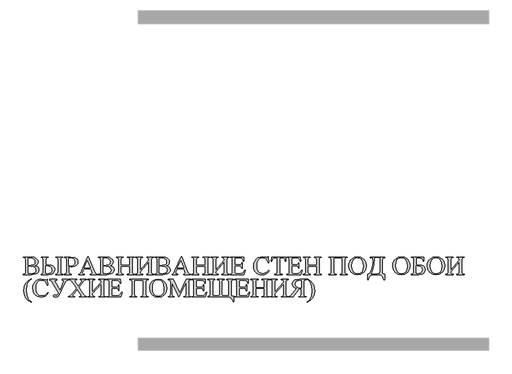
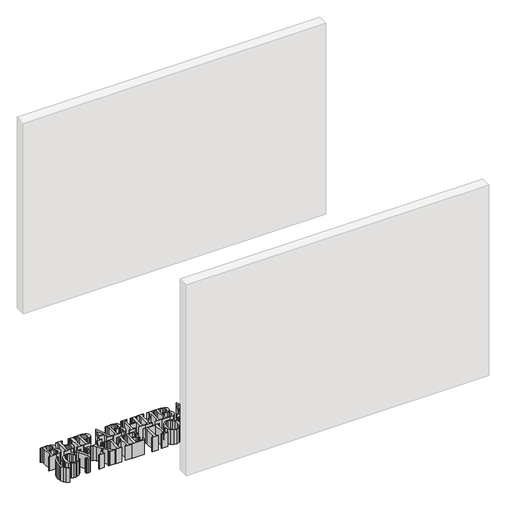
# One storey, part 10 of 17: 1 proxy.
"""IFC4 building model written with IfcOpenShell, lengths in millimetres."""

from ifc_helpers import new_model, si_unit, origin, origin_with_axes, place, context, project, spatial, polyline, outline, extrude, element, save

model = new_model("IFC4")

# Units and contexts
model_context = context("Model", 3, world=origin())
ifc_project = project(units=[si_unit("LENGTHUNIT", "METRE", prefix="MILLI")], contexts=[model_context])

# Site, building, storey
site = spatial("IfcSite", under=ifc_project)
building = spatial("IfcBuilding", under=site)
storey = spatial("IfcBuildingStorey", under=building, Name="Уровень 1", Elevation=0.0)

# Proxy
placement = place(None, origin())
element("IfcBuildingElementProxy", 1, Name="SG_Текст 2", ObjectType="SG_Текст 2", at=placement, inside=storey, context=model_context, shape_type="SweptSolid", body=[
    extrude(outline(polyline([(-676.1512491, 3742.2593826), (-662.4340903, 3738.0155109), (-652.6591062, 3731.8005518), (-644.5434558, 3720.667931), (-641.838239, 3707.3027521), (-643.5931101, 3696.5472526), (-648.8577235, 3686.2442987), (-657.1795336, 3677.5302825), (-668.1059947, 3671.5415962), (-705.4762015, 3666.915575), (-775.7112726, 3666.915575), (-775.7112726, 3669.4900564), (-770.3611784, 3669.4900564), (-762.688017, 3671.0287113), (-757.5289976, 3675.644676), (-755.1154213, 3692.6603891), (-755.1154213, 3790.4906828), (-758.1726179, 3808.6327316), (-770.3611784, 3813.6610156), (-775.7112726, 3813.6610156), (-775.7112726, 3816.235497), (-711.8319525, 3816.235497), (-683.1506205, 3813.580563), (-668.7194454, 3808.0142526), (-658.1701055, 3799.3605758), (-651.7137888, 3788.3938884), (-649.5616833, 3775.8885461), (-651.2461584, 3765.1380749), (-656.2995838, 3755.5742787), (-664.6314505, 3747.7603253), (-676.1512491, 3742.2593826)]), holes=[polyline([(-734.5195699, 3748.2933234), (-725.1066223, 3747.1267615), (-713.4812296, 3746.7244988), (-689.0035431, 3750.2241845), (-682.1751334, 3754.6490744), (-678.0619971, 3760.9243729), (-675.3064974, 3776.6930715), (-677.8709223, 3788.9168299), (-685.5641968, 3799.1996708), (-698.1751331, 3806.1839572), (-715.4925432, 3808.5120527), (-734.5195699, 3806.0582501), (-734.5195699, 3748.2933234)]), polyline([(-734.5195699, 3677.5755371), (-708.9758872, 3674.6390192), (-691.18079, 3676.8564924), (-678.1826759, 3683.5089122), (-670.2329588, 3693.41966), (-667.5830532, 3705.4121174), (-672.430319, 3721.925002), (-678.7659568, 3729.0249391), (-688.0783388, 3734.4353727), (-714.8086966, 3739.0010546), (-726.6151075, 3738.7798101), (-734.5195699, 3738.035624), (-734.5195699, 3677.5755371)])]), origin_with_axes(), (0.0, 0.0, 1.0), 150.0),
    extrude(outline(polyline([(-582.6251665, 3749.2989802), (-576.5107731, 3749.2989802), (-535.1983917, 3745.8194077), (-523.2260475, 3740.7458691), (-513.6974493, 3732.4843985), (-507.4674054, 3721.6434181), (-505.3907241, 3708.8313505), (-508.4831187, 3693.1581892), (-517.7603027, 3679.5265113), (-534.6100825, 3670.068309), (-560.4202643, 3666.915575), (-623.8168691, 3666.915575), (-623.8168691, 3669.4900564), (-606.9017217, 3673.8948332), (-603.2210178, 3692.6603891), (-603.2210178, 3790.4906828), (-606.9017217, 3809.2562388), (-623.8168691, 3813.6610156), (-623.8168691, 3816.235497), (-562.0293152, 3816.235497), (-562.0293152, 3813.6610156), (-578.9444626, 3809.2562388), (-582.6251665, 3790.4906828), (-582.6251665, 3749.2989802)]), holes=[polyline([(-582.6251665, 3676.2078438), (-567.2587306, 3674.6390192), (-554.1198244, 3676.9118036), (-542.2983287, 3683.7301567), (-533.9262358, 3694.5610805), (-531.1355382, 3708.8715768), (-534.0519429, 3723.3681196), (-542.8011571, 3733.5503947), (-556.0356006, 3739.5692506), (-572.4076934, 3741.575536), (-582.6251665, 3740.690558), (-582.6251665, 3676.2078438)])]), origin_with_axes(), (0.0, 0.0, 1.0), 150.0),
    extrude(outline(polyline([(-435.8797259, 3669.4900564), (-435.8797259, 3666.915575), (-497.6672798, 3666.915575), (-497.6672798, 3669.4900564), (-493.403295, 3669.4900564), (-483.4472926, 3671.7628407), (-478.2983298, 3677.6962159), (-477.0714285, 3692.6603891), (-477.0714285, 3790.8929456), (-478.3988955, 3805.6962137), (-483.6081977, 3811.649702), (-494.3687255, 3813.6610156), (-497.6672798, 3813.6610156), (-497.6672798, 3816.235497), (-435.8797259, 3816.235497), (-435.8797259, 3813.6610156), (-439.0576014, 3813.6610156), (-449.6773372, 3811.6094757), (-455.0475445, 3805.6157612), (-456.4755772, 3790.4906828), (-456.4755772, 3692.6603891), (-453.1770229, 3674.1764171), (-447.9978903, 3670.6616465), (-439.0576014, 3669.4900564), (-435.8797259, 3669.4900564)])), origin_with_axes(), (0.0, 0.0, 1.0), 150.0),
    extrude(outline(polyline([(-384.3900976, 3737.1908723), (-384.3900976, 3692.6603891), (-381.4133534, 3674.5183404), (-369.3052455, 3669.4900564), (-363.7942463, 3669.4900564), (-363.7942463, 3666.915575), (-425.5818002, 3666.915575), (-425.5818002, 3669.4900564), (-420.1512535, 3669.4900564), (-412.3272436, 3671.0890507), (-407.1179413, 3675.8860336), (-404.9859489, 3692.6603891), (-404.9859489, 3790.4906828), (-407.8420142, 3808.6327316), (-420.1512535, 3813.6610156), (-425.5818002, 3813.6610156), (-425.5818002, 3816.235497), (-368.6213989, 3816.235497), (-335.6961952, 3812.1123041), (-324.5987724, 3806.5711351), (-315.4020409, 3798.194014), (-309.2172516, 3787.4988539), (-307.1556551, 3775.0035681), (-310.4240398, 3758.4454288), (-320.2291936, 3745.2964661), (-335.9978922, 3736.7131853), (-357.1569114, 3733.8520917), (-369.8281871, 3734.6968434), (-384.3900976, 3737.1908723)]), holes=[polyline([(-384.3900976, 3743.7879809), (-372.8451575, 3742.1387038), (-364.2367353, 3741.575536), (-352.3247304, 3743.8080941), (-342.172625, 3750.5057684), (-335.2185082, 3760.7634678), (-332.9004693, 3773.6761011), (-337.3253592, 3791.7980367), (-349.855843, 3804.3486336), (-368.2995887, 3808.5120527), (-384.3900976, 3806.4202866), (-384.3900976, 3743.7879809)])]), origin_with_axes(), (0.0, 0.0, 1.0), 150.0),
    extrude(outline(polyline([(-198.1022315, 3715.8307218), (-256.3498735, 3715.8307218), (-265.9639525, 3693.4649145), (-269.7049958, 3679.5466244), (-266.4466678, 3673.1104209), (-252.3674725, 3669.4900564), (-252.3674725, 3666.915575), (-299.8344736, 3666.915575), (-299.8344736, 3669.4900564), (-287.6861395, 3674.1563039), (-275.1757688, 3697.527768), (-222.8011626, 3818.8099784), (-217.2901633, 3818.8099784), (-168.1336588, 3695.5566807), (-156.6691712, 3674.8401506), (-142.3486184, 3669.4900564), (-142.3486184, 3666.915575), (-201.3605595, 3666.915575), (-201.3605595, 3669.4900564), (-189.2725648, 3672.8087238), (-186.1148024, 3679.7075295), (-190.5396923, 3696.8439214), (-198.1022315, 3715.8307218)]), holes=[polyline([(-201.1996544, 3723.5541661), (-226.0594906, 3784.1751581), (-253.0110929, 3723.5541661), (-201.1996544, 3723.5541661)])]), origin_with_axes(), (0.0, 0.0, 1.0), 150.0),
    extrude(outline(polyline([(-32.5308955, 3742.2593826), (-18.8137367, 3738.0155109), (-9.0387526, 3731.8005518), (-0.9231022, 3720.667931), (1.7821146, 3707.3027521), (0.0272435, 3696.5472526), (-5.2373699, 3686.2442987), (-13.5591799, 3677.5302825), (-24.4856411, 3671.5415962), (-61.8558479, 3666.915575), (-132.090919, 3666.915575), (-132.090919, 3669.4900564), (-126.7408248, 3669.4900564), (-119.0676634, 3671.0287113), (-113.908644, 3675.644676), (-111.4950677, 3692.6603891), (-111.4950677, 3790.4906828), (-114.5522643, 3808.6327316), (-126.7408248, 3813.6610156), (-132.090919, 3813.6610156), (-132.090919, 3816.235497), (-68.2115989, 3816.235497), (-39.5302669, 3813.580563), (-25.0990917, 3808.0142526), (-14.5497519, 3799.3605758), (-8.0934352, 3788.3938884), (-5.9413297, 3775.8885461), (-7.6258048, 3765.1380749), (-12.6792302, 3755.5742787), (-21.0110968, 3747.7603253), (-32.5308955, 3742.2593826)]), holes=[polyline([(-90.8992163, 3748.2933234), (-81.4862687, 3747.1267615), (-69.860876, 3746.7244988), (-45.3831895, 3750.2241845), (-38.5547798, 3754.6490744), (-34.4416434, 3760.9243729), (-31.6861438, 3776.6930715), (-34.2505686, 3788.9168299), (-41.9438432, 3799.1996708), (-54.5547795, 3806.1839572), (-71.8721896, 3808.5120527), (-90.8992163, 3806.0582501), (-90.8992163, 3748.2933234)]), polyline([(-90.8992163, 3677.5755371), (-65.3555336, 3674.6390192), (-47.5604364, 3676.8564924), (-34.5623223, 3683.5089122), (-26.6126052, 3693.41966), (-23.9626996, 3705.4121174), (-28.8099653, 3721.925002), (-35.1456032, 3729.0249391), (-44.4579852, 3734.4353727), (-71.188343, 3739.0010546), (-82.9947539, 3738.7798101), (-90.8992163, 3738.035624), (-90.8992163, 3677.5755371)])]), origin_with_axes(), (0.0, 0.0, 1.0), 150.0),
    extrude(outline(polyline([(60.9951871, 3746.7244988), (135.6551481, 3746.7244988), (135.6551481, 3790.4906828), (134.2874549, 3806.0582501), (129.8223387, 3810.9256291), (120.1680334, 3813.6610156), (115.0592968, 3813.6610156), (115.0592968, 3816.235497), (176.8468508, 3816.235497), (176.8468508, 3813.6610156), (171.7381142, 3813.6610156), (162.0838089, 3811.0463079), (157.4779008, 3805.5353086), (156.2509995, 3790.4906828), (156.2509995, 3692.6603891), (157.6186927, 3677.1330481), (162.0033564, 3672.2254429), (171.7381142, 3669.4900564), (176.8468508, 3669.4900564), (176.8468508, 3666.915575), (115.0592968, 3666.915575), (115.0592968, 3669.4900564), (120.1680334, 3669.4900564), (127.7808554, 3670.8879193), (133.0002142, 3675.0815082), (135.6551481, 3692.6603891), (135.6551481, 3739.0010546), (60.9951871, 3739.0010546), (60.9951871, 3692.6603891), (62.3628804, 3677.1330481), (66.7877703, 3672.2254429), (76.4018493, 3669.4900564), (81.5910384, 3669.4900564), (81.5910384, 3666.915575), (19.8034845, 3666.915575), (19.8034845, 3669.4900564), (24.912221, 3669.4900564), (32.595439, 3670.8879193), (37.8650807, 3675.0815082), (40.3993358, 3692.6603891), (40.3993358, 3790.4906828), (39.0316426, 3806.0582501), (34.6469789, 3810.9256291), (24.912221, 3813.6610156), (19.8034845, 3813.6610156), (19.8034845, 3816.235497), (81.5910384, 3816.235497), (81.5910384, 3813.6610156), (76.4018493, 3813.6610156), (66.7877703, 3811.0463079), (62.2623147, 3805.5353086), (60.9951871, 3790.4906828), (60.9951871, 3746.7244988)])), origin_with_axes(), (0.0, 0.0, 1.0), 150.0),
    extrude(outline(polyline([(300.4219587, 3790.4906828), (296.338992, 3809.6383884), (279.8261073, 3813.6610156), (279.8261073, 3816.235497), (341.6136613, 3816.235497), (341.6136613, 3813.6610156), (324.6985139, 3809.2562388), (321.01781, 3790.4906828), (321.01781, 3692.6603891), (324.6985139, 3673.8948332), (341.6136613, 3669.4900564), (341.6136613, 3666.915575), (279.8261073, 3666.915575), (279.8261073, 3669.4900564), (296.8015942, 3673.9551726), (300.4219587, 3692.6603891), (300.4219587, 3777.6182758), (225.7619976, 3692.6603891), (226.9687858, 3677.8370078), (232.0775224, 3671.9036327), (246.357849, 3669.4900564), (246.357849, 3666.915575), (184.570295, 3666.915575), (184.570295, 3669.4900564), (201.4854424, 3673.8948332), (205.1661463, 3692.6603891), (205.1661463, 3790.4906828), (201.4854424, 3809.2562388), (184.570295, 3813.6610156), (184.570295, 3816.235497), (246.357849, 3816.235497), (246.357849, 3813.6610156), (229.4225884, 3809.2562388), (225.7619976, 3790.4906828), (225.7619976, 3705.5327962), (300.4219587, 3790.4906828)])), origin_with_axes(), (0.0, 0.0, 1.0), 150.0),
    extrude(outline(polyline([(448.897129, 3742.2593826), (462.6142878, 3738.0155109), (472.3892719, 3731.8005518), (480.5049223, 3720.667931), (483.2101391, 3707.3027521), (481.455268, 3696.5472526), (476.1906546, 3686.2442987), (467.8688446, 3677.5302825), (456.9423834, 3671.5415962), (419.5721766, 3666.915575), (349.3371055, 3666.915575), (349.3371055, 3669.4900564), (354.6871997, 3669.4900564), (362.3603611, 3671.0287113), (367.5193805, 3675.644676), (369.9329569, 3692.6603891), (369.9329569, 3790.4906828), (366.8757602, 3808.6327316), (354.6871997, 3813.6610156), (349.3371055, 3813.6610156), (349.3371055, 3816.235497), (413.2164256, 3816.235497), (441.8977576, 3813.580563), (456.3289328, 3808.0142526), (466.8782726, 3799.3605758), (473.3345893, 3788.3938884), (475.4866948, 3775.8885461), (473.8022197, 3765.1380749), (468.7487943, 3755.5742787), (460.4169277, 3747.7603253), (448.897129, 3742.2593826)]), holes=[polyline([(390.5288082, 3748.2933234), (399.9417558, 3747.1267615), (411.5671485, 3746.7244988), (436.044835, 3750.2241845), (442.8732447, 3754.6490744), (446.9863811, 3760.9243729), (449.7418807, 3776.6930715), (447.1774559, 3788.9168299), (439.4841813, 3799.1996708), (426.873245, 3806.1839572), (409.5558349, 3808.5120527), (390.5288082, 3806.0582501), (390.5288082, 3748.2933234)]), polyline([(390.5288082, 3677.5755371), (416.072491, 3674.6390192), (433.8675881, 3676.8564924), (446.8657022, 3683.5089122), (454.8154193, 3693.41966), (457.4653249, 3705.4121174), (452.6180592, 3721.925002), (446.2824213, 3729.0249391), (436.9700393, 3734.4353727), (410.2396815, 3739.0010546), (398.4332706, 3738.7798101), (390.5288082, 3738.035624), (390.5288082, 3677.5755371)])]), origin_with_axes(), (0.0, 0.0, 1.0), 150.0),
    extrude(outline(polyline([(599.987007, 3715.8307218), (541.739365, 3715.8307218), (532.125286, 3693.4649145), (528.3842427, 3679.5466244), (531.6425707, 3673.1104209), (545.7217659, 3669.4900564), (545.7217659, 3666.915575), (498.2547649, 3666.915575), (498.2547649, 3669.4900564), (510.403099, 3674.1563039), (522.9134697, 3697.527768), (575.2880759, 3818.8099784), (580.7990752, 3818.8099784), (629.9555797, 3695.5566807), (641.4200673, 3674.8401506), (655.7406201, 3669.4900564), (655.7406201, 3666.915575), (596.728679, 3666.915575), (596.728679, 3669.4900564), (608.8166737, 3672.8087238), (611.9744361, 3679.7075295), (607.5495462, 3696.8439214), (599.987007, 3715.8307218)]), holes=[polyline([(596.889584, 3723.5541661), (572.0297479, 3784.1751581), (545.0781456, 3723.5541661), (596.889584, 3723.5541661)])]), origin_with_axes(), (0.0, 0.0, 1.0), 150.0),
    extrude(outline(polyline([(707.1900221, 3746.7244988), (781.8499832, 3746.7244988), (781.8499832, 3790.4906828), (780.4822899, 3806.0582501), (776.0171737, 3810.9256291), (766.3628684, 3813.6610156), (761.2541318, 3813.6610156), (761.2541318, 3816.235497), (823.0416858, 3816.235497), (823.0416858, 3813.6610156), (817.9329492, 3813.6610156), (808.2786439, 3811.0463079), (803.6727358, 3805.5353086), (802.4458345, 3790.4906828), (802.4458345, 3692.6603891), (803.8135277, 3677.1330481), (808.1981914, 3672.2254429), (817.9329492, 3669.4900564), (823.0416858, 3669.4900564), (823.0416858, 3666.915575), (761.2541318, 3666.915575), (761.2541318, 3669.4900564), (766.3628684, 3669.4900564), (773.9756904, 3670.8879193), (779.1950492, 3675.0815082), (781.8499832, 3692.6603891), (781.8499832, 3739.0010546), (707.1900221, 3739.0010546), (707.1900221, 3692.6603891), (708.5577154, 3677.1330481), (712.9826053, 3672.2254429), (722.5966844, 3669.4900564), (727.7858735, 3669.4900564), (727.7858735, 3666.915575), (665.9983195, 3666.915575), (665.9983195, 3669.4900564), (671.1070561, 3669.4900564), (678.790274, 3670.8879193), (684.0599157, 3675.0815082), (686.5941708, 3692.6603891), (686.5941708, 3790.4906828), (685.2264776, 3806.0582501), (680.8418139, 3810.9256291), (671.1070561, 3813.6610156), (665.9983195, 3813.6610156), (665.9983195, 3816.235497), (727.7858735, 3816.235497), (727.7858735, 3813.6610156), (722.5966844, 3813.6610156), (712.9826053, 3811.0463079), (708.4571497, 3805.5353086), (707.1900221, 3790.4906828), (707.1900221, 3746.7244988)])), origin_with_axes(), (0.0, 0.0, 1.0), 150.0),
    extrude(outline(polyline([(946.6167937, 3790.4906828), (942.5338271, 3809.6383884), (926.0209424, 3813.6610156), (926.0209424, 3816.235497), (987.8084963, 3816.235497), (987.8084963, 3813.6610156), (970.8933489, 3809.2562388), (967.212645, 3790.4906828), (967.212645, 3692.6603891), (970.8933489, 3673.8948332), (987.8084963, 3669.4900564), (987.8084963, 3666.915575), (926.0209424, 3666.915575), (926.0209424, 3669.4900564), (942.9964292, 3673.9551726), (946.6167937, 3692.6603891), (946.6167937, 3777.6182758), (871.9568327, 3692.6603891), (873.1636208, 3677.8370078), (878.2723574, 3671.9036327), (892.552684, 3669.4900564), (892.552684, 3666.915575), (830.76513, 3666.915575), (830.76513, 3669.4900564), (847.6802775, 3673.8948332), (851.3609814, 3692.6603891), (851.3609814, 3790.4906828), (847.6802775, 3809.2562388), (830.76513, 3813.6610156), (830.76513, 3816.235497), (892.552684, 3816.235497), (892.552684, 3813.6610156), (875.6174234, 3809.2562388), (871.9568327, 3790.4906828), (871.9568327, 3705.5327962), (946.6167937, 3790.4906828)])), origin_with_axes(), (0.0, 0.0, 1.0), 150.0),
    extrude(outline(polyline([(1036.7236432, 3808.5120527), (1036.7236432, 3749.2989802), (1072.766383, 3749.2989802), (1089.621191, 3752.959571), (1094.0360244, 3759.6069624), (1095.9367157, 3769.8948315), (1098.5111971, 3769.8948315), (1098.5111971, 3720.9796847), (1095.9367157, 3720.9796847), (1092.879519, 3733.9325443), (1086.4835418, 3739.5441092), (1072.766383, 3741.575536), (1036.7236432, 3741.575536), (1036.7236432, 3691.614506), (1037.6488475, 3679.3857193), (1040.8870624, 3675.9262599), (1049.6362765, 3674.6390192), (1076.1856161, 3674.6390192), (1095.4741136, 3676.4894277), (1107.0391668, 3683.8106092), (1121.6815299, 3705.5327962), (1126.8304927, 3705.5327962), (1113.2340127, 3666.915575), (995.5319406, 3666.915575), (995.5319406, 3669.4900564), (1000.6406771, 3669.4900564), (1010.2949824, 3672.1449903), (1014.9008906, 3677.6358765), (1016.1277919, 3692.6603891), (1016.1277919, 3790.4906828), (1013.3521791, 3808.994768), (1000.6406771, 3813.6610156), (995.5319406, 3813.6610156), (995.5319406, 3816.235497), (1111.3836042, 3816.235497), (1113.9580856, 3782.7672386), (1108.8091228, 3782.7672386), (1103.5394812, 3799.7427254), (1094.9712852, 3806.782323), (1078.9612289, 3808.5120527), (1036.7236432, 3808.5120527)])), origin_with_axes(), (0.0, 0.0, 1.0), 150.0),
    extrude(outline(polyline([(1322.4910802, 3818.8099784), (1325.0655616, 3767.3203501), (1322.4910802, 3767.3203501), (1314.3804581, 3787.3480053), (1303.4037141, 3800.8489479), (1289.7619796, 3808.5271376), (1273.6563859, 3811.0865342), (1259.7934068, 3809.2310974), (1247.3282908, 3803.664787), (1236.8191772, 3794.0305948), (1228.8242056, 3779.9715127), (1223.7707802, 3761.7138134), (1222.086305, 3739.4837698), (1223.6903276, 3720.8590058), (1228.5023954, 3704.8891758), (1236.5426216, 3691.9564293), (1247.8311192, 3682.442916), (1261.6488436, 3676.5899934), (1277.2767504, 3674.6390192), (1302.6394149, 3680.3310367), (1314.1793267, 3688.833865), (1326.7952913, 3702.9583148), (1330.2145244, 3700.3838333), (1318.1013883, 3684.1877305), (1304.127787, 3673.0098552), (1287.8210619, 3666.5082839), (1268.7085544, 3664.3410935), (1251.2679513, 3666.0431677), (1235.9140861, 3671.1493901), (1222.6469587, 3679.6597608), (1211.4665692, 3691.5742797), (1200.1227605, 3713.63839), (1196.3414909, 3739.2826385), (1198.840548, 3760.5070253), (1206.3377195, 3779.9312864), (1218.2195546, 3796.3687469), (1233.8726028, 3808.6327316), (1252.2258394, 3816.2656667), (1272.2082401, 3818.8099784), (1304.0674476, 3812.8967164), (1310.6645562, 3811.0865342), (1315.8537453, 3812.6553588), (1319.9165988, 3818.8099784), (1322.4910802, 3818.8099784)])), origin_with_axes(), (0.0, 0.0, 1.0), 150.0),
    extrude(outline(polyline([(1471.8110022, 3816.235497), (1474.3854837, 3782.7672386), (1470.2019514, 3782.7672386), (1466.7827182, 3796.0419084), (1457.43011, 3805.4749692), (1442.0033346, 3808.5120527), (1420.3213739, 3808.5120527), (1420.3213739, 3692.6603891), (1423.2176655, 3674.3976616), (1435.848715, 3669.4900564), (1440.9172253, 3669.4900564), (1440.9172253, 3666.915575), (1379.1296713, 3666.915575), (1379.1296713, 3669.4900564), (1384.2786341, 3669.4900564), (1392.1529269, 3671.0085981), (1397.3521726, 3675.5642235), (1399.7255226, 3692.6603891), (1399.7255226, 3808.5120527), (1381.8650578, 3808.5120527), (1367.0617897, 3806.9834544), (1357.2868056, 3798.9180868), (1352.4596529, 3782.7672386), (1348.2358943, 3782.7672386), (1350.8103758, 3816.235497), (1471.8110022, 3816.235497)])), origin_with_axes(), (0.0, 0.0, 1.0), 150.0),
    extrude(outline(polyline([(1523.3006305, 3808.5120527), (1523.3006305, 3749.2989802), (1559.3433703, 3749.2989802), (1576.1981783, 3752.959571), (1580.6130117, 3759.6069624), (1582.5137031, 3769.8948315), (1585.0881845, 3769.8948315), (1585.0881845, 3720.9796847), (1582.5137031, 3720.9796847), (1579.4565064, 3733.9325443), (1573.0605291, 3739.5441092), (1559.3433703, 3741.575536), (1523.3006305, 3741.575536), (1523.3006305, 3691.614506), (1524.2258348, 3679.3857193), (1527.4640497, 3675.9262599), (1536.2132639, 3674.6390192), (1562.7626035, 3674.6390192), (1582.0511009, 3676.4894277), (1593.6161542, 3683.8106092), (1608.2585172, 3705.5327962), (1613.40748, 3705.5327962), (1599.8110001, 3666.915575), (1482.1089279, 3666.915575), (1482.1089279, 3669.4900564), (1487.2176645, 3669.4900564), (1496.8719698, 3672.1449903), (1501.4778779, 3677.6358765), (1502.7047792, 3692.6603891), (1502.7047792, 3790.4906828), (1499.9291664, 3808.994768), (1487.2176645, 3813.6610156), (1482.1089279, 3813.6610156), (1482.1089279, 3816.235497), (1597.9605915, 3816.235497), (1600.535073, 3782.7672386), (1595.3861101, 3782.7672386), (1590.1164685, 3799.7427254), (1581.5482725, 3806.782323), (1565.5382162, 3808.5120527), (1523.3006305, 3808.5120527)])), origin_with_axes(), (0.0, 0.0, 1.0), 150.0),
    extrude(outline(polyline([(1662.3226269, 3746.7244988), (1736.9825879, 3746.7244988), (1736.9825879, 3790.4906828), (1735.6148947, 3806.0582501), (1731.1497785, 3810.9256291), (1721.4954732, 3813.6610156), (1716.3867366, 3813.6610156), (1716.3867366, 3816.235497), (1778.1742906, 3816.235497), (1778.1742906, 3813.6610156), (1773.065554, 3813.6610156), (1763.4112487, 3811.0463079), (1758.8053405, 3805.5353086), (1757.5784392, 3790.4906828), (1757.5784392, 3692.6603891), (1758.9461325, 3677.1330481), (1763.3307962, 3672.2254429), (1773.065554, 3669.4900564), (1778.1742906, 3669.4900564), (1778.1742906, 3666.915575), (1716.3867366, 3666.915575), (1716.3867366, 3669.4900564), (1721.4954732, 3669.4900564), (1729.1082952, 3670.8879193), (1734.327654, 3675.0815082), (1736.9825879, 3692.6603891), (1736.9825879, 3739.0010546), (1662.3226269, 3739.0010546), (1662.3226269, 3692.6603891), (1663.6903202, 3677.1330481), (1668.1152101, 3672.2254429), (1677.7292891, 3669.4900564), (1682.9184782, 3669.4900564), (1682.9184782, 3666.915575), (1621.1309243, 3666.915575), (1621.1309243, 3669.4900564), (1626.2396608, 3669.4900564), (1633.9228788, 3670.8879193), (1639.1925204, 3675.0815082), (1641.7267756, 3692.6603891), (1641.7267756, 3790.4906828), (1640.3590823, 3806.0582501), (1635.9744187, 3810.9256291), (1626.2396608, 3813.6610156), (1621.1309243, 3813.6610156), (1621.1309243, 3816.235497), (1682.9184782, 3816.235497), (1682.9184782, 3813.6610156), (1677.7292891, 3813.6610156), (1668.1152101, 3811.0463079), (1663.5897545, 3805.5353086), (1662.3226269, 3790.4906828), (1662.3226269, 3746.7244988)])), origin_with_axes(), (0.0, 0.0, 1.0), 150.0),
    extrude(outline(polyline([(1958.3879896, 3808.5120527), (1883.7280285, 3808.5120527), (1883.7280285, 3692.6603891), (1887.348393, 3673.8948332), (1904.3238799, 3669.4900564), (1904.3238799, 3666.915575), (1842.5363259, 3666.915575), (1842.5363259, 3669.4900564), (1859.4514733, 3673.8948332), (1863.1321772, 3692.6603891), (1863.1321772, 3790.4906828), (1859.4514733, 3809.2562388), (1842.5363259, 3813.6610156), (1842.5363259, 3816.235497), (1999.5796922, 3816.235497), (1999.5796922, 3813.6610156), (1982.6645448, 3809.2562388), (1978.9838409, 3790.4906828), (1978.9838409, 3692.6603891), (1982.6645448, 3673.8948332), (1999.5796922, 3669.4900564), (1999.5796922, 3666.915575), (1937.7921383, 3666.915575), (1937.7921383, 3669.4900564), (1954.6871725, 3673.8546069), (1958.3879896, 3692.6603891), (1958.3879896, 3808.5120527)])), origin_with_axes(), (0.0, 0.0, 1.0), 150.0),
    extrude(outline(polyline([(2088.5602061, 3818.8099784), (2116.266051, 3813.349262), (2140.0096081, 3796.9671127), (2156.331418, 3772.4190301), (2161.7720213, 3742.460514), (2156.2911917, 3711.6522178), (2139.848703, 3686.5661089), (2115.6224306, 3669.8973474), (2086.7902501, 3664.3410935), (2057.8122493, 3669.7615837), (2033.8725892, 3686.0230542), (2017.8072217, 3710.8929469), (2012.4520993, 3742.1387038), (2013.9982966, 3758.9105451), (2018.6368886, 3774.0683073), (2026.3678753, 3787.6119902), (2037.1912566, 3799.5415941), (2060.7739086, 3813.9928823), (2088.5602061, 3818.8099784)]), holes=[polyline([(2086.4282137, 3811.0865342), (2067.9844679, 3807.4058303), (2053.6035756, 3796.3637186), (2042.048579, 3773.7666102), (2038.1969134, 3742.6616453), (2042.1893709, 3710.6214196), (2054.1667434, 3686.9080322), (2068.3967872, 3675.7754114), (2086.5488925, 3672.0645378), (2106.1592001, 3676.1273913), (2122.0284645, 3688.3159517), (2132.5275215, 3709.2637829), (2136.0272072, 3739.6044486), (2132.1755416, 3772.7508968), (2120.6205449, 3796.2430398), (2105.8977294, 3807.3756606), (2086.4282137, 3811.0865342)])]), origin_with_axes(), (0.0, 0.0, 1.0), 150.0),
    extrude(outline(polyline([(2195.2402797, 3816.235497), (2318.8153876, 3816.235497), (2318.8153876, 3811.0865342), (2301.9002402, 3806.7018705), (2298.2195363, 3788.1173328), (2298.2195363, 3705.8948326), (2300.9750359, 3676.4089752), (2306.8128737, 3672.1852166), (2318.8153876, 3670.7772971), (2318.8153876, 3623.1493909), (2313.6664248, 3623.1493909), (2303.3886122, 3649.919975), (2295.8160165, 3658.3926335), (2287.2981034, 3663.4963418), (2265.7569347, 3666.915575), (2228.9096694, 3666.915575), (2207.9417251, 3663.4661721), (2193.3898712, 3653.1179636), (2184.3188468, 3638.7270148), (2179.7933912, 3623.1493909), (2174.6444284, 3623.1493909), (2174.6444284, 3670.7772971), (2189.9957795, 3676.8212945), (2202.1793116, 3691.8960899), (2211.1547986, 3713.7188425), (2216.8820141, 3740.0067114), (2220.9850938, 3786.7898658), (2218.1290285, 3802.8803747), (2211.3509017, 3809.3366913), (2195.2402797, 3811.0865342), (2195.2402797, 3816.235497)]), holes=[polyline([(2233.8575009, 3808.5120527), (2229.8952131, 3752.5925062), (2223.4791227, 3716.293324), (2214.5287772, 3692.6352477), (2202.9637239, 3674.6390192), (2257.3496438, 3674.6390192), (2274.7475065, 3677.2336137), (2277.623685, 3694.1487612), (2277.623685, 3808.5120527), (2233.8575009, 3808.5120527)])]), origin_with_axes(), (0.0, 0.0, 1.0), 150.0),
    extrude(outline(polyline([(2464.4344926, 3818.8099784), (2492.1403375, 3813.349262), (2515.8838946, 3796.9671127), (2532.2057045, 3772.4190301), (2537.6463078, 3742.460514), (2532.1654782, 3711.6522178), (2515.7229895, 3686.5661089), (2491.4967172, 3669.8973474), (2462.6645366, 3664.3410935), (2433.6865359, 3669.7615837), (2409.7468757, 3686.0230542), (2393.6815083, 3710.8929469), (2388.3263858, 3742.1387038), (2389.8725831, 3758.9105451), (2394.5111751, 3774.0683073), (2402.2421618, 3787.6119902), (2413.0655431, 3799.5415941), (2436.6481951, 3813.9928823), (2464.4344926, 3818.8099784)]), holes=[polyline([(2462.3025002, 3811.0865342), (2443.8587544, 3807.4058303), (2429.4778621, 3796.3637186), (2417.9228655, 3773.7666102), (2414.0711999, 3742.6616453), (2418.0636574, 3710.6214196), (2430.0410299, 3686.9080322), (2444.2710737, 3675.7754114), (2462.423179, 3672.0645378), (2482.0334866, 3676.1273913), (2497.902751, 3688.3159517), (2508.401808, 3709.2637829), (2511.9014937, 3739.6044486), (2508.0498281, 3772.7508968), (2496.4948315, 3796.2430398), (2481.7720159, 3807.3756606), (2462.3025002, 3811.0865342)])]), origin_with_axes(), (0.0, 0.0, 1.0), 150.0),
    extrude(outline(polyline([(2654.0611393, 3816.235497), (2656.0724529, 3782.7672386), (2650.9234901, 3782.7672386), (2646.4734587, 3796.4190297), (2640.122736, 3803.9865971), (2629.9806871, 3807.3806888), (2614.1566774, 3808.5120527), (2589.1359361, 3808.5120527), (2589.1359361, 3749.2989802), (2595.2503295, 3749.2989802), (2636.5627109, 3745.8194077), (2648.5350551, 3740.7458691), (2658.0636534, 3732.4843985), (2664.2936972, 3721.6434181), (2666.3703785, 3708.8313505), (2663.2779839, 3693.1581892), (2654.0007999, 3679.5265113), (2637.1510201, 3670.068309), (2611.3408383, 3666.915575), (2547.9442335, 3666.915575), (2547.9442335, 3669.4900564), (2564.8593809, 3673.8948332), (2568.5400848, 3692.6603891), (2568.5400848, 3790.4906828), (2566.9109208, 3805.8370057), (2561.6010529, 3811.4485706), (2547.9442335, 3813.6610156), (2547.9442335, 3816.235497), (2654.0611393, 3816.235497)]), holes=[polyline([(2589.1359361, 3676.2078438), (2604.5023721, 3674.6390192), (2617.6412782, 3676.9118036), (2629.4627739, 3683.7301567), (2637.8348668, 3694.5610805), (2640.6255644, 3708.8715768), (2637.7091597, 3723.3681196), (2628.9599455, 3733.5503947), (2615.725502, 3739.5692506), (2599.3534092, 3741.575536), (2589.1359361, 3740.690558), (2589.1359361, 3676.2078438)])]), origin_with_axes(), (0.0, 0.0, 1.0), 150.0),
    extrude(outline(polyline([(2760.4998553, 3818.8099784), (2788.2057002, 3813.349262), (2811.9492573, 3796.9671127), (2828.2710672, 3772.4190301), (2833.7116705, 3742.460514), (2828.2308409, 3711.6522178), (2811.7883522, 3686.5661089), (2787.5620798, 3669.8973474), (2758.7298993, 3664.3410935), (2729.7518985, 3669.7615837), (2705.8122383, 3686.0230542), (2689.7468709, 3710.8929469), (2684.3917484, 3742.1387038), (2685.9379458, 3758.9105451), (2690.5765378, 3774.0683073), (2698.3075244, 3787.6119902), (2709.1309058, 3799.5415941), (2732.7135578, 3813.9928823), (2760.4998553, 3818.8099784)]), holes=[polyline([(2758.3678628, 3811.0865342), (2739.9241171, 3807.4058303), (2725.5432248, 3796.3637186), (2713.9882281, 3773.7666102), (2710.1365626, 3742.6616453), (2714.1290201, 3710.6214196), (2726.1063926, 3686.9080322), (2740.3364364, 3675.7754114), (2758.4885417, 3672.0645378), (2778.0988493, 3676.1273913), (2793.9681136, 3688.3159517), (2804.4671707, 3709.2637829), (2807.9668563, 3739.6044486), (2804.1151908, 3772.7508968), (2792.5601941, 3796.2430398), (2777.8373785, 3807.3756606), (2758.3678628, 3811.0865342)])]), origin_with_axes(), (0.0, 0.0, 1.0), 150.0),
    extrude(outline(polyline([(2959.8612598, 3790.4906828), (2955.7782932, 3809.6383884), (2939.2654085, 3813.6610156), (2939.2654085, 3816.235497), (3001.0529624, 3816.235497), (3001.0529624, 3813.6610156), (2984.137815, 3809.2562388), (2980.4571111, 3790.4906828), (2980.4571111, 3692.6603891), (2984.137815, 3673.8948332), (3001.0529624, 3669.4900564), (3001.0529624, 3666.915575), (2939.2654085, 3666.915575), (2939.2654085, 3669.4900564), (2956.2408953, 3673.9551726), (2959.8612598, 3692.6603891), (2959.8612598, 3777.6182758), (2885.2012988, 3692.6603891), (2886.4080869, 3677.8370078), (2891.5168235, 3671.9036327), (2905.7971501, 3669.4900564), (2905.7971501, 3666.915575), (2844.0095961, 3666.915575), (2844.0095961, 3669.4900564), (2860.9247436, 3673.8948332), (2864.6054475, 3692.6603891), (2864.6054475, 3790.4906828), (2860.9247436, 3809.2562388), (2844.0095961, 3813.6610156), (2844.0095961, 3816.235497), (2905.7971501, 3816.235497), (2905.7971501, 3813.6610156), (2888.8618895, 3809.2562388), (2885.2012988, 3790.4906828), (2885.2012988, 3705.5327962), (2959.8612598, 3790.4906828)])), origin_with_axes(), (0.0, 0.0, 1.0), 150.0),
    extrude(outline(polyline([(-708.7747558, 3434.5321697), (-708.7747558, 3429.3832069), (-736.9733725, 3448.6113649), (-751.2536991, 3465.662276), (-761.8332087, 3485.5189696), (-768.3800345, 3507.1858454), (-770.5623098, 3529.6673032), (-766.2832401, 3561.6673027), (-753.446031, 3590.7307843), (-733.7200728, 3614.3938888), (-708.7747558, 3630.1927572), (-708.7747558, 3625.0437944), (-721.632078, 3616.4303438), (-731.9652017, 3605.1519028), (-739.884749, 3590.8514631), (-745.5013422, 3573.1720165), (-749.9664584, 3532.7244999), (-746.1851889, 3491.1305345), (-738.964573, 3467.4372603), (-727.5403117, 3450.2606421), (-708.7747558, 3434.5321697)])), origin_with_axes(), (0.0, 0.0, 1.0), 150.0),
    extrude(outline(polyline([(-569.7527594, 3627.6182758), (-567.178278, 3576.1286475), (-569.7527594, 3576.1286475), (-577.8633815, 3596.1563027), (-588.8401255, 3609.6572453), (-602.4818601, 3617.335435), (-618.5874538, 3619.8948315), (-632.4504328, 3618.0393947), (-644.9155488, 3612.4730843), (-655.4246624, 3602.8388922), (-663.419634, 3588.7798101), (-668.4730594, 3570.5221108), (-670.1575346, 3548.2920672), (-668.553512, 3529.6673032), (-663.7414442, 3513.6974732), (-655.7012181, 3500.7647267), (-644.4127204, 3491.2512134), (-630.594996, 3485.3982908), (-614.9670893, 3483.4473166), (-589.6044247, 3489.1393341), (-578.0645129, 3497.6421623), (-565.4485483, 3511.7666121), (-562.0293152, 3509.1921307), (-574.1424514, 3492.9960279), (-588.1160526, 3481.8181525), (-604.4227777, 3475.3165813), (-623.5352852, 3473.1493909), (-640.9758883, 3474.851465), (-656.3297536, 3479.9576875), (-669.5968809, 3488.4680581), (-680.7772704, 3500.3825771), (-692.1210792, 3522.4466874), (-695.9023487, 3548.0909358), (-693.4032916, 3569.3153226), (-685.9061201, 3588.7395838), (-674.024285, 3605.1770442), (-658.3712369, 3617.4410289), (-640.0180002, 3625.0739641), (-620.0355995, 3627.6182758), (-588.176392, 3621.7050138), (-581.5792834, 3619.8948315), (-576.3900943, 3621.4636561), (-572.3272408, 3627.6182758), (-569.7527594, 3627.6182758)])), origin_with_axes(), (0.0, 0.0, 1.0), 150.0),
    extrude(outline(polyline([(-549.1569081, 3625.0437944), (-487.3693542, 3625.0437944), (-487.3693542, 3619.8948315), (-500.8853816, 3617.6220472), (-505.3907241, 3612.0104822), (-493.4435212, 3586.3863469), (-460.3372993, 3529.4259456), (-435.8797259, 3586.3863469), (-428.1562816, 3610.0796211), (-431.3743834, 3616.5158247), (-441.0286887, 3619.8948315), (-441.0286887, 3625.0437944), (-394.6880232, 3625.0437944), (-394.6880232, 3619.8948315), (-409.1996509, 3613.5692502), (-419.7489908, 3598.373776), (-448.7521329, 3530.6327337), (-467.1154262, 3493.8458079), (-482.5422015, 3478.1374486), (-499.8797248, 3473.1493909), (-512.9331501, 3476.2468139), (-518.2631311, 3484.694331), (-515.5277446, 3491.1707608), (-508.0858843, 3493.7452422), (-497.104112, 3490.5673667), (-490.6276822, 3488.5962794), (-481.4560922, 3493.4334886), (-471.238619, 3507.9451163), (-525.6647652, 3601.4711989), (-536.1235959, 3614.6855293), (-549.1569081, 3619.8948315), (-549.1569081, 3625.0437944)])), origin_with_axes(), (0.0, 0.0, 1.0), 150.0),
    extrude(outline(polyline([(-300.5987728, 3558.1475039), (-268.5384339, 3510.8011816), (-248.6666555, 3484.392634), (-232.2543365, 3478.2983537), (-232.2543365, 3475.7238723), (-295.4095837, 3475.7238723), (-295.4095837, 3478.2983537), (-285.9161835, 3479.7062733), (-282.0946876, 3482.9646013), (-280.6063156, 3487.3894912), (-281.5717461, 3492.820038), (-287.6861395, 3503.2386424), (-313.4309536, 3541.2524696), (-344.1235992, 3500.9859712), (-350.0972006, 3491.9551731), (-351.0827443, 3487.2688124), (-348.1060001, 3481.0940796), (-336.7219651, 3478.2983537), (-336.7219651, 3475.7238723), (-390.4240384, 3475.7238723), (-390.4240384, 3478.2983537), (-380.6892805, 3480.7521563), (-367.6559684, 3488.978429), (-353.4963206, 3504.807467), (-319.2235368, 3549.8206655), (-348.3473578, 3593.3857182), (-368.8225303, 3616.6163904), (-388.1713672, 3622.4693129), (-388.1713672, 3625.0437944), (-319.1833105, 3625.0437944), (-319.1833105, 3622.4693129), (-331.2914184, 3619.37189), (-334.5497465, 3613.2977229), (-329.2398785, 3600.4253158), (-306.391356, 3566.6754735), (-279.8420164, 3601.5114252), (-274.1298858, 3609.617019), (-273.0840027, 3614.1424746), (-274.4114697, 3618.2053281), (-278.6151151, 3621.4234299), (-289.1342852, 3622.4693129), (-289.1342852, 3625.0437944), (-235.8344747, 3625.0437944), (-235.8344747, 3622.4693129), (-246.1324004, 3620.4177731), (-257.0739464, 3613.4184017), (-271.1129153, 3597.0865352), (-300.5987728, 3558.1475039)])), origin_with_axes(), (0.0, 0.0, 1.0), 150.0),
    extrude(outline(polyline([(-108.9205862, 3599.2989802), (-113.0035529, 3618.4466857), (-129.5164376, 3622.4693129), (-129.5164376, 3625.0437944), (-67.7288836, 3625.0437944), (-67.7288836, 3622.4693129), (-84.644031, 3618.0645361), (-88.3247349, 3599.2989802), (-88.3247349, 3501.4686865), (-84.644031, 3482.7031305), (-67.7288836, 3478.2983537), (-67.7288836, 3475.7238723), (-129.5164376, 3475.7238723), (-129.5164376, 3478.2983537), (-112.5409507, 3482.7634699), (-108.9205862, 3501.4686865), (-108.9205862, 3586.4265731), (-183.5805473, 3501.4686865), (-182.3737591, 3486.6453052), (-177.2650225, 3480.7119301), (-162.9846959, 3478.2983537), (-162.9846959, 3475.7238723), (-224.7722499, 3475.7238723), (-224.7722499, 3478.2983537), (-207.8571025, 3482.7031305), (-204.1763986, 3501.4686865), (-204.1763986, 3599.2989802), (-207.8571025, 3618.0645361), (-224.7722499, 3622.4693129), (-224.7722499, 3625.0437944), (-162.9846959, 3625.0437944), (-162.9846959, 3622.4693129), (-179.9199565, 3618.0645361), (-183.5805473, 3599.2989802), (-183.5805473, 3514.3410935), (-108.9205862, 3599.2989802)])), origin_with_axes(), (0.0, 0.0, 1.0), 150.0),
    extrude(outline(polyline([(-18.8137367, 3617.3203501), (-18.8137367, 3558.1072776), (17.2290031, 3558.1072776), (34.0838111, 3561.7678683), (38.4986444, 3568.4152598), (40.3993358, 3578.7031289), (42.9738172, 3578.7031289), (42.9738172, 3529.787982), (40.3993358, 3529.787982), (37.3421391, 3542.7408416), (30.9461619, 3548.3524066), (17.2290031, 3550.3838333), (-18.8137367, 3550.3838333), (-18.8137367, 3500.4228034), (-17.8885325, 3488.1940167), (-14.6503176, 3484.7345573), (-5.9011034, 3483.4473166), (20.6482362, 3483.4473166), (39.9367337, 3485.2977251), (51.5017869, 3492.6189066), (66.1441499, 3514.3410935), (71.2931128, 3514.3410935), (57.6966328, 3475.7238723), (-60.0054394, 3475.7238723), (-60.0054394, 3478.2983537), (-54.8967028, 3478.2983537), (-45.2423975, 3480.9532877), (-40.6364893, 3486.4441738), (-39.409588, 3501.4686865), (-39.409588, 3599.2989802), (-42.1852008, 3617.8030654), (-54.8967028, 3622.4693129), (-60.0054394, 3622.4693129), (-60.0054394, 3625.0437944), (55.8462243, 3625.0437944), (58.4207057, 3591.575536), (53.2717429, 3591.575536), (48.0021012, 3608.5510228), (39.4339053, 3615.5906204), (23.423849, 3617.3203501), (-18.8137367, 3617.3203501)])), origin_with_axes(), (0.0, 0.0, 1.0), 150.0),
    extrude(outline(polyline([(251.5068118, 3617.3203501), (176.8468508, 3617.3203501), (176.8468508, 3501.4686865), (180.4672153, 3482.7031305), (197.4427021, 3478.2983537), (197.4427021, 3475.7238723), (135.6551481, 3475.7238723), (135.6551481, 3478.2983537), (152.5702956, 3482.7031305), (156.2509995, 3501.4686865), (156.2509995, 3599.2989802), (152.5702956, 3618.0645361), (135.6551481, 3622.4693129), (135.6551481, 3625.0437944), (292.6985144, 3625.0437944), (292.6985144, 3622.4693129), (275.783367, 3618.0645361), (272.1026631, 3599.2989802), (272.1026631, 3501.4686865), (275.783367, 3482.7031305), (292.6985144, 3478.2983537), (292.6985144, 3475.7238723), (230.9109605, 3475.7238723), (230.9109605, 3478.2983537), (247.8059948, 3482.6629043), (251.5068118, 3501.4686865), (251.5068118, 3617.3203501)])), origin_with_axes(), (0.0, 0.0, 1.0), 150.0),
    extrude(outline(polyline([(381.6790283, 3627.6182758), (409.3848732, 3622.1575593), (433.1284303, 3605.77541), (449.4502402, 3581.2273275), (454.8908435, 3551.2688113), (449.410014, 3520.4605152), (432.9675252, 3495.3744062), (408.7412529, 3478.7056447), (379.9090723, 3473.1493909), (350.9310716, 3478.5698811), (326.9914114, 3494.8313516), (310.926044, 3519.7012443), (305.5709215, 3550.9470011), (307.1171188, 3567.7188425), (311.7557108, 3582.8766046), (319.4866975, 3596.4202876), (330.3100788, 3608.3498914), (353.8927309, 3622.8011797), (381.6790283, 3627.6182758)]), holes=[polyline([(379.5470359, 3619.8948315), (361.1032901, 3616.2141276), (346.7223978, 3605.1720159), (335.1674012, 3582.5749076), (331.3157356, 3551.4699427), (335.3081931, 3519.429717), (347.2855657, 3495.7163296), (361.5156094, 3484.5837087), (379.6677147, 3480.8728351), (399.2780223, 3484.9356886), (415.1472867, 3497.1242491), (425.6463437, 3518.0720803), (429.1460294, 3548.412746), (425.2943638, 3581.5591942), (413.7393672, 3605.0513371), (399.0165516, 3616.1839579), (379.5470359, 3619.8948315)])]), origin_with_axes(), (0.0, 0.0, 1.0), 150.0),
    extrude(outline(polyline([(555.2956187, 3475.7238723), (496.0825462, 3601.3505201), (496.0825462, 3501.4686865), (498.9788378, 3483.2059589), (511.5294346, 3478.2983537), (516.6783975, 3478.2983537), (516.6783975, 3475.7238723), (465.1887692, 3475.7238723), (465.1887692, 3478.2983537), (470.337732, 3478.2983537), (478.2120248, 3479.8168955), (483.4112704, 3484.3725208), (485.7846205, 3501.4686865), (485.7846205, 3599.2989802), (483.6526281, 3614.5045111), (478.1014025, 3620.1965286), (465.1887692, 3622.4693129), (465.1887692, 3625.0437944), (507.4665812, 3625.0437944), (562.5765739, 3507.90489), (620.1805956, 3625.0437944), (660.8493567, 3625.0437944), (660.8493567, 3622.4693129), (655.8210727, 3622.4693129), (647.8562708, 3620.9507712), (642.6268554, 3616.3951459), (640.2535054, 3599.2989802), (640.2535054, 3501.4686865), (643.2704758, 3483.2059589), (655.8210727, 3478.2983537), (660.8493567, 3478.2983537), (660.8493567, 3475.7238723), (599.0618027, 3475.7238723), (599.0618027, 3478.2983537), (604.2107656, 3478.2983537), (612.1453977, 3479.8168955), (617.284304, 3484.3725208), (619.6576541, 3501.4686865), (619.6576541, 3601.3505201), (557.8701001, 3475.7238723), (555.2956187, 3475.7238723)])), origin_with_axes(), (0.0, 0.0, 1.0), 150.0),
    extrude(outline(polyline([(707.1900221, 3617.3203501), (707.1900221, 3558.1072776), (743.2327619, 3558.1072776), (760.08757, 3561.7678683), (764.5024033, 3568.4152598), (766.4030947, 3578.7031289), (768.9775761, 3578.7031289), (768.9775761, 3529.787982), (766.4030947, 3529.787982), (763.345898, 3542.7408416), (756.9499207, 3548.3524066), (743.2327619, 3550.3838333), (707.1900221, 3550.3838333), (707.1900221, 3500.4228034), (708.1152264, 3488.1940167), (711.3534413, 3484.7345573), (720.1026555, 3483.4473166), (746.6519951, 3483.4473166), (765.9404925, 3485.2977251), (777.5055458, 3492.6189066), (792.1479088, 3514.3410935), (797.2968716, 3514.3410935), (783.7003917, 3475.7238723), (665.9983195, 3475.7238723), (665.9983195, 3478.2983537), (671.1070561, 3478.2983537), (680.7613614, 3480.9532877), (685.3672695, 3486.4441738), (686.5941708, 3501.4686865), (686.5941708, 3599.2989802), (683.8185581, 3617.8030654), (671.1070561, 3622.4693129), (665.9983195, 3622.4693129), (665.9983195, 3625.0437944), (781.8499832, 3625.0437944), (784.4244646, 3591.575536), (779.2755017, 3591.575536), (774.0058601, 3608.5510228), (765.4376641, 3615.5906204), (749.4276079, 3617.3203501), (707.1900221, 3617.3203501)])), origin_with_axes(), (0.0, 0.0, 1.0), 150.0),
    extrude(outline(polyline([(805.0203159, 3475.7238723), (805.0203159, 3478.2983537), (809.3647533, 3478.7408427), (822.036029, 3482.9042619), (825.6161672, 3501.4686865), (825.6161672, 3599.2989802), (821.7946714, 3617.7829522), (805.0203159, 3622.4693129), (805.0203159, 3625.0437944), (864.2333884, 3625.0437944), (864.2333884, 3622.4693129), (849.4502334, 3617.2398976), (846.2120185, 3599.2989802), (846.2120185, 3502.9168323), (847.0768834, 3488.3348086), (849.9530618, 3484.3524077), (859.2453307, 3483.4473166), (889.7368449, 3483.4473166), (903.353438, 3485.2373857), (905.4250911, 3502.9168323), (905.4250911, 3599.2989802), (902.2673287, 3617.0789925), (887.4037212, 3622.4693129), (887.4037212, 3625.0437944), (944.0423123, 3625.0437944), (944.0423123, 3622.4693129), (929.1988179, 3617.1192188), (926.0209424, 3599.2989802), (926.0209424, 3502.9168323), (927.9920297, 3485.8005535), (942.8757504, 3483.4473166), (973.9304324, 3483.4473166), (982.2371576, 3484.5133128), (984.7110734, 3487.7113014), (985.2340149, 3502.9168323), (985.2340149, 3599.2989802), (982.0159131, 3617.1795582), (967.212645, 3622.4693129), (967.212645, 3625.0437944), (1023.8512361, 3625.0437944), (1023.8512361, 3622.4693129), (1012.1655041, 3620.0557366), (1007.0366544, 3613.8206644), (1005.8298662, 3599.2989802), (1005.8298662, 3503.1984162), (1006.8958624, 3488.2141298), (1011.4816575, 3482.3612072), (1026.4257175, 3479.6258207), (1026.4257175, 3431.9576883), (1021.2767547, 3431.9576883), (1009.3295519, 3459.854608), (992.4144045, 3472.3649786), (963.9945432, 3475.7238723), (805.0203159, 3475.7238723)])), origin_with_axes(), (0.0, 0.0, 1.0), 150.0),
    extrude(outline(polyline([(1075.3408644, 3617.3203501), (1075.3408644, 3558.1072776), (1111.3836042, 3558.1072776), (1128.2384122, 3561.7678683), (1132.6532456, 3568.4152598), (1134.5539369, 3578.7031289), (1137.1284184, 3578.7031289), (1137.1284184, 3529.787982), (1134.5539369, 3529.787982), (1131.4967403, 3542.7408416), (1125.100763, 3548.3524066), (1111.3836042, 3550.3838333), (1075.3408644, 3550.3838333), (1075.3408644, 3500.4228034), (1076.2660687, 3488.1940167), (1079.5042836, 3484.7345573), (1088.2534978, 3483.4473166), (1114.8028373, 3483.4473166), (1134.0913348, 3485.2977251), (1145.656388, 3492.6189066), (1160.2987511, 3514.3410935), (1165.4477139, 3514.3410935), (1151.8512339, 3475.7238723), (1034.1491618, 3475.7238723), (1034.1491618, 3478.2983537), (1039.2578983, 3478.2983537), (1048.9122036, 3480.9532877), (1053.5181118, 3486.4441738), (1054.7450131, 3501.4686865), (1054.7450131, 3599.2989802), (1051.9694003, 3617.8030654), (1039.2578983, 3622.4693129), (1034.1491618, 3622.4693129), (1034.1491618, 3625.0437944), (1150.0008254, 3625.0437944), (1152.5753068, 3591.575536), (1147.426344, 3591.575536), (1142.1567024, 3608.5510228), (1133.5885064, 3615.5906204), (1117.5784501, 3617.3203501), (1075.3408644, 3617.3203501)])), origin_with_axes(), (0.0, 0.0, 1.0), 150.0),
    extrude(outline(polyline([(1214.3628608, 3555.5327962), (1289.0228218, 3555.5327962), (1289.0228218, 3599.2989802), (1287.6551286, 3614.8665475), (1283.1900124, 3619.7339264), (1273.5357071, 3622.4693129), (1268.4269705, 3622.4693129), (1268.4269705, 3625.0437944), (1330.2145244, 3625.0437944), (1330.2145244, 3622.4693129), (1325.1057879, 3622.4693129), (1315.4514826, 3619.8546053), (1310.8455744, 3614.343606), (1309.6186731, 3599.2989802), (1309.6186731, 3501.4686865), (1310.9863664, 3485.9413454), (1315.37103, 3481.0337402), (1325.1057879, 3478.2983537), (1330.2145244, 3478.2983537), (1330.2145244, 3475.7238723), (1268.4269705, 3475.7238723), (1268.4269705, 3478.2983537), (1273.5357071, 3478.2983537), (1281.148529, 3479.6962167), (1286.3678879, 3483.8898056), (1289.0228218, 3501.4686865), (1289.0228218, 3547.8093519), (1214.3628608, 3547.8093519), (1214.3628608, 3501.4686865), (1215.730554, 3485.9413454), (1220.155444, 3481.0337402), (1229.769523, 3478.2983537), (1234.9587121, 3478.2983537), (1234.9587121, 3475.7238723), (1173.1711582, 3475.7238723), (1173.1711582, 3478.2983537), (1178.2798947, 3478.2983537), (1185.9631127, 3479.6962167), (1191.2327543, 3483.8898056), (1193.7670095, 3501.4686865), (1193.7670095, 3599.2989802), (1192.3993162, 3614.8665475), (1188.0146526, 3619.7339264), (1178.2798947, 3622.4693129), (1173.1711582, 3622.4693129), (1173.1711582, 3625.0437944), (1234.9587121, 3625.0437944), (1234.9587121, 3622.4693129), (1229.769523, 3622.4693129), (1220.155444, 3619.8546053), (1215.6299884, 3614.343606), (1214.3628608, 3599.2989802), (1214.3628608, 3555.5327962)])), origin_with_axes(), (0.0, 0.0, 1.0), 150.0),
    extrude(outline(polyline([(1453.7896323, 3599.2989802), (1449.7066657, 3618.4466857), (1433.193781, 3622.4693129), (1433.193781, 3625.0437944), (1494.981335, 3625.0437944), (1494.981335, 3622.4693129), (1478.0661875, 3618.0645361), (1474.3854837, 3599.2989802), (1474.3854837, 3501.4686865), (1478.0661875, 3482.7031305), (1494.981335, 3478.2983537), (1494.981335, 3475.7238723), (1433.193781, 3475.7238723), (1433.193781, 3478.2983537), (1450.1692678, 3482.7634699), (1453.7896323, 3501.4686865), (1453.7896323, 3586.4265731), (1379.1296713, 3501.4686865), (1380.3364595, 3486.6453052), (1385.445196, 3480.7119301), (1399.7255226, 3478.2983537), (1399.7255226, 3475.7238723), (1337.9379687, 3475.7238723), (1337.9379687, 3478.2983537), (1354.8531161, 3482.7031305), (1358.53382, 3501.4686865), (1358.53382, 3599.2989802), (1354.8531161, 3618.0645361), (1337.9379687, 3622.4693129), (1337.9379687, 3625.0437944), (1399.7255226, 3625.0437944), (1399.7255226, 3622.4693129), (1382.7902621, 3618.0645361), (1379.1296713, 3599.2989802), (1379.1296713, 3514.3410935), (1453.7896323, 3599.2989802)])), origin_with_axes(), (0.0, 0.0, 1.0), 150.0),
    extrude(outline(polyline([(1495.6249553, 3475.7238723), (1495.6249553, 3478.2983537), (1515.53696, 3484.996028), (1533.7996875, 3506.2153866), (1565.2566323, 3549.2574977), (1548.8895679, 3554.8690627), (1537.4401652, 3563.4171455), (1530.6972363, 3574.3285218), (1528.4495934, 3587.0299672), (1530.4508504, 3598.8916892), (1536.4546215, 3608.9733987), (1545.3245145, 3616.7270126), (1555.9241372, 3621.6044481), (1591.5646143, 3625.0437944), (1646.8757384, 3625.0437944), (1646.8757384, 3622.4693129), (1641.485418, 3622.4693129), (1629.2566312, 3617.4410289), (1626.2798871, 3599.2989802), (1626.2798871, 3501.4686865), (1628.4923321, 3484.694331), (1633.6915777, 3479.897348), (1641.485418, 3478.2983537), (1646.8757384, 3478.2983537), (1646.8757384, 3475.7238723), (1585.0881845, 3475.7238723), (1585.0881845, 3478.2983537), (1590.6796363, 3478.2983537), (1602.7072917, 3483.3266377), (1605.6840358, 3501.4686865), (1605.6840358, 3545.2348705), (1601.7820874, 3545.0538523), (1598.2421754, 3544.9935129), (1587.7833447, 3545.2348705), (1536.2534901, 3475.7238723), (1495.6249553, 3475.7238723)]), holes=[polyline([(1605.6840358, 3552.9583148), (1605.6840358, 3614.7458687), (1587.5822133, 3617.3203501), (1573.9807051, 3615.1280183), (1563.3458844, 3608.5510228), (1556.4822767, 3598.4642851), (1554.1944075, 3585.7427265), (1557.0303597, 3572.6541032), (1565.5382162, 3562.1097917), (1579.6375246, 3555.1556749), (1599.2478323, 3552.8376359), (1601.8826531, 3552.8979753), (1605.6840358, 3552.9583148)])]), origin_with_axes(), (0.0, 0.0, 1.0), 150.0),
    extrude(outline(polyline([(1657.1736641, 3625.0437944), (1657.1736641, 3630.1927572), (1685.4929596, 3611.0852779), (1699.6827771, 3593.9539143), (1710.232117, 3574.0972207), (1716.7789428, 3552.4404015), (1718.961218, 3529.9086608), (1714.6922049, 3497.9086614), (1701.8851655, 3468.8451798), (1682.1692639, 3445.1820752), (1657.1736641, 3429.3832069), (1657.1736641, 3434.5321697), (1670.0410429, 3443.195903), (1680.4043362, 3454.4642875), (1688.3439967, 3468.7496424), (1693.9404768, 3486.464287), (1698.3653667, 3526.972143), (1694.5840971, 3568.5661083), (1687.4238207, 3592.1990432), (1675.9995594, 3609.315322), (1657.1736641, 3625.0437944)])), origin_with_axes(), (0.0, 0.0, 1.0), 150.0),
])

save(model, "model.ifc")
